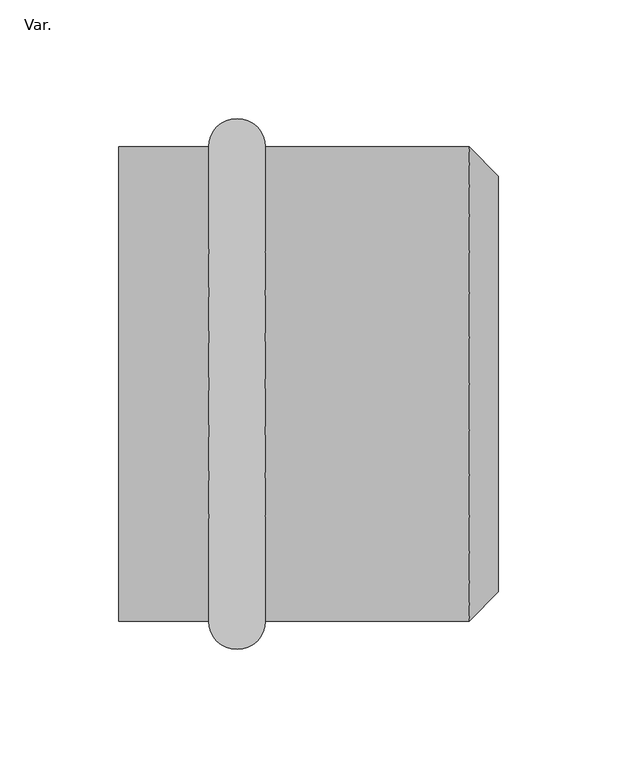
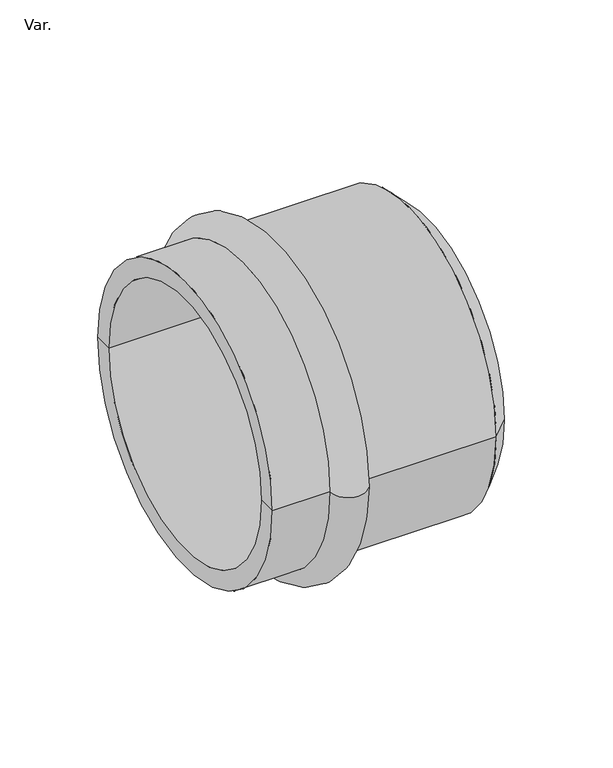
"""IFC4 building model written with IfcOpenShell, lengths in millimetres: pipe fitting geometry, PavcoWavin_UnionesDeTuberia_AwwaC110CampanaA : Var.."""

from ifc_helpers import new_model, si_unit, point, frame, origin, place, context, project, spatial, polyline, circle_curve, ellipse_curve, trimmed, source, transform, mapped, element, save
from ifc_brep_helpers import plane_surface, cylinder_surface, revolved_surface, advanced_brep


def var_f61483a0(model_context):
    return source(origin(), model_context, "Body", "AdvancedBrep", [
        advanced_brep(
        [(-148.0, -100.0, 0.0), (-148.0, 100.0, 0.0), (-110.0, 100.0, 0.0), (-110.0, -100.0, 0.0), (-148.0, -87.71, 0.0), (-148.0, 87.71, 0.0), (12.29, -87.71, 0.0), (12.29, 87.71, 0.0), (0.0, -100.0, 0.0), (0.0, 100.0, 0.0), (-86.0, -100.0, 0.0), (-86.0, 100.0, 0.0)],
        [
            (0, 1, circle_curve(frame((-148.0, 0.0, 0.0), z_axis=(1.0, 0.0, 0.0), x_axis=(0.0, 1.0, 0.0)), 100.0)),
            (1, 2),
            (2, 3, circle_curve(frame((-110.0, 0.0, 0.0), z_axis=(-1.0, 0.0, 0.0), x_axis=(0.0, 1.0, 0.0)), 100.0)),
            (3, 0),
            (1, 0, circle_curve(frame((-148.0, 0.0, 0.0), z_axis=(1.0, 0.0, 0.0), x_axis=(0.0, 1.0, 0.0)), 100.0)),
            (3, 2, circle_curve(frame((-110.0, 0.0, 0.0), z_axis=(-1.0, 0.0, 0.0), x_axis=(0.0, 1.0, 0.0)), 100.0)),
            (4, 5, circle_curve(frame((-148.0, 0.0, 0.0), z_axis=(1.0, 0.0, 0.0), x_axis=(0.0, 1.0, 0.0)), 87.71)),
            (5, 1),
            (0, 4),
            (5, 4, circle_curve(frame((-148.0, 0.0, 0.0), z_axis=(1.0, 0.0, 0.0), x_axis=(0.0, 1.0, 0.0)), 87.71)),
            (6, 7, circle_curve(frame((12.29, 0.0, 0.0), z_axis=(1.0, 0.0, 0.0), x_axis=(0.0, 1.0, 0.0)), 87.71)),
            (7, 5),
            (4, 6),
            (7, 6, circle_curve(frame((12.29, 0.0, 0.0), z_axis=(1.0, 0.0, 0.0), x_axis=(0.0, 1.0, 0.0)), 87.71)),
            (8, 9, circle_curve(frame((0.0, 0.0, 0.0), z_axis=(1.0, 0.0, 0.0), x_axis=(0.0, 1.0, 0.0)), 100.0)),
            (9, 7),
            (6, 8),
            (9, 8, circle_curve(frame((0.0, 0.0, 0.0), z_axis=(1.0, 0.0, 0.0), x_axis=(0.0, 1.0, 0.0)), 100.0)),
            (10, 11, circle_curve(frame((-86.0, 0.0, 0.0), z_axis=(1.0, 0.0, 0.0), x_axis=(0.0, 1.0, 0.0)), 100.0)),
            (11, 9),
            (8, 10),
            (11, 10, circle_curve(frame((-86.0, 0.0, 0.0), z_axis=(1.0, 0.0, 0.0), x_axis=(0.0, 1.0, 0.0)), 100.0)),
            (2, 11, circle_curve(frame((-98.0, 100.0, 0.0), z_axis=(0.0, 0.0, -1.0), x_axis=(1.0, 0.0, 0.0)), 12.0)),
            (10, 3, circle_curve(frame((-98.0, -100.0, 0.0), z_axis=(0.0, 0.0, -1.0), x_axis=(1.0, 0.0, 0.0)), 12.0)),
        ],
        [
            cylinder_surface(frame((1832.29, 0.0, 0.0), z_axis=(-1.0, 0.0, 0.0), x_axis=(0.0, 1.0, 0.0)), 100.0),
            plane_surface(frame((-148.0, 0.0, 0.0), z_axis=(-1.0, 0.0, 0.0), x_axis=(0.0, 1.0, 0.0))),
            revolved_surface(polyline([(-148.0, 87.71, 0.0), (12.289999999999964, 87.71, 0.0)]), (1832.29, 0.0, 0.0), (-1.0, 0.0, 0.0)),
            revolved_surface(polyline([(12.29, 87.71, 0.0), (0.0, 100.0, 0.0)]), (1832.29, 0.0, 0.0), (-1.0, 0.0, 0.0)),
            revolved_surface(trimmed(ellipse_curve(frame((-98.0, 100.0, 0.0), z_axis=(0.0, 0.0, 1.0), x_axis=(1.0, 0.0, 0.0)), 12.0, 12.0), [point((-86.0, 100.0, 0.0))], [point((-110.0, 100.0, 0.0))], True, "CARTESIAN"), (1832.29, 0.0, 0.0), (-1.0, 0.0, 0.0)),
        ],
        [
            (0, [[1, 2, 3, 4]]),
            (0, [[5, -4, 6, -2]]),
            (1, [[7, 8, -1, 9]]),
            (1, [[10, -9, -5, -8]]),
            (2, [[11, 12, -7, 13]]),
            (2, [[14, -13, -10, -12]]),
            (3, [[15, 16, -11, 17]]),
            (3, [[18, -17, -14, -16]]),
            (0, [[19, 20, -15, 21]]),
            (0, [[22, -21, -18, -20]]),
            (4, [[-3, 23, -19, 24]]),
            (4, [[-6, -24, -22, -23]]),
        ],
    ),
    ])


if __name__ == "__main__":
    model = new_model("IFC4")
    model_context = context("Model", 3, world=origin())
    ifc_project = project(units=[si_unit("LENGTHUNIT", "METRE", prefix="MILLI")], contexts=[model_context])
    site = spatial("IfcSite", under=ifc_project)
    building = spatial("IfcBuilding", under=site)
    placement = place(None, origin())
    var_shape = var_f61483a0(model_context)
    element("IfcPipeFitting", 1, ObjectType="PavcoWavin_UnionesDeTuberia_AwwaC110CampanaA : Var.", at=placement, inside=building, context=model_context, shape_type="MappedRepresentation", body=[
        mapped(var_shape, transform((0.0, 0.0, 0.0), x_axis=(1.0, 0.0, 0.0), y_axis=(0.0, 1.0, 0.0), z_axis=(0.0, 0.0, 1.0))),
    ])
    save(model, "model.ifc")
